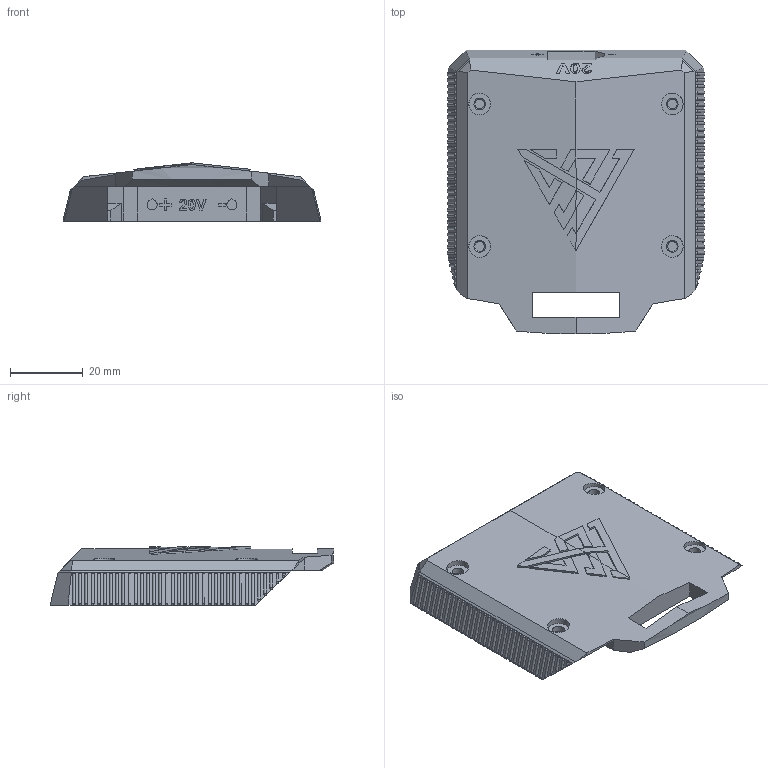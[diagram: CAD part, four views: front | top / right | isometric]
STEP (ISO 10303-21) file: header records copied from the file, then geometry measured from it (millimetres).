
FILE_DESCRIPTION(/* description */ ('','CAx-IF Rec.Pracs.---Representation and Presentation of Product Manufacturing Information (PMI)---4.0---2014-10-13'),/* implementation_level */ '2;1');
FILE_NAME(/* name */ 'Parkside Battery Connector XT60 v14.step',/* time_stamp */ '2025-03-06T09:08:47+01:00',/* author */ (''),/* organization */ (''),/* preprocessor_version */ 'ST-DEVELOPER v20',/* originating_system */ 'Autodesk Translation Framework v13.20.0.188',/* authorisation */ '');
FILE_SCHEMA (('AP242_MANAGED_MODEL_BASED_3D_ENGINEERING_MIM_LF { 1 0 10303 442 1 1 4 }'));
Length unit declared in the file: millimetre
Products named in the file (1): Parkside Battery Connector XT60
Bounding box: 71.1 x 78.3 x 16.1 mm (x, y, z)
Volume: 36019.4 mm3; surface area: 19625.6 mm2
Topology: 2 solids, 2 shells, 500 faces, 1532 edges, 995 vertices
Faces by surface type: plane 196, sphere 140, cylinder 85, bspline 74, cone 5
Full cylindrical faces by diameter (mm): 2.7 x4, 3.2 x4, 6 x4
Entity records: 17610 total; most frequent: CARTESIAN_POINT 4220, ORIENTED_EDGE 2924, DIRECTION 2684, EDGE_CURVE 1462, VERTEX_POINT 995, AXIS2_PLACEMENT_3D 945, LINE 794, VECTOR 794
